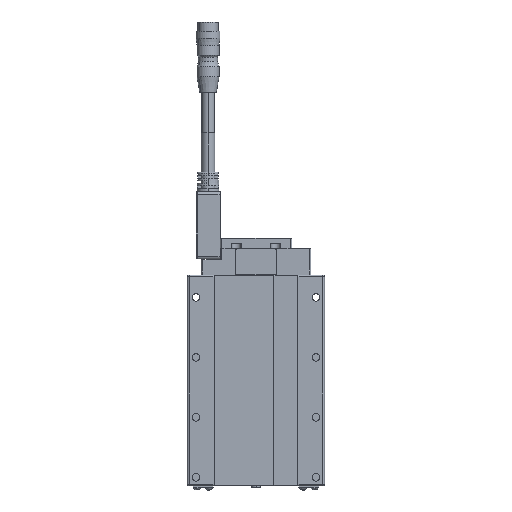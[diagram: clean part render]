
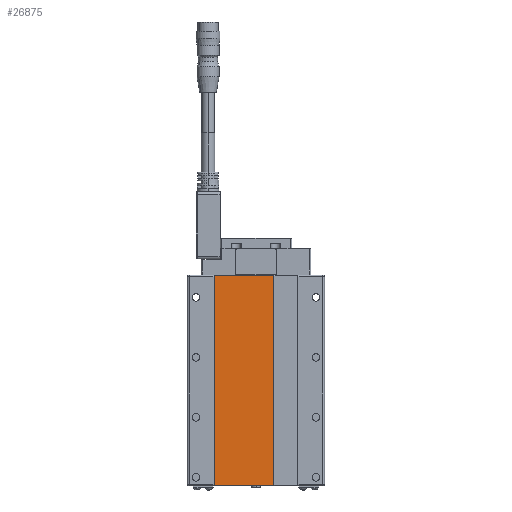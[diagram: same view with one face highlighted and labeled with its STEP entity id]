
A CAD part, front view. The second image highlights one B-rep face of the part: STEP entity #26875.
In plain terms, the highlighted planar face has unit normal (0, -1, 0).
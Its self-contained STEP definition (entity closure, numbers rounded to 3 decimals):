
#1488 = PLANE ( 'NONE',  #7801 ) ;
#2582 = LINE ( 'NONE', #53885, #22488 ) ;
#6243 = CARTESIAN_POINT ( 'NONE',  ( -24.3, 0.3, 122.8 ) ) ;
#6254 = EDGE_CURVE ( 'NONE', #56263, #32735, #2582, .T. ) ;
#7801 = AXIS2_PLACEMENT_3D ( 'NONE', #14573, #20474, #21379 ) ;
#7893 = ORIENTED_EDGE ( 'NONE', *, *, #54864, .T. ) ;
#8570 = DIRECTION ( 'NONE',  ( 1., 0., 0. ) ) ;
#11033 = LINE ( 'NONE', #52718, #39254 ) ;
#14573 = CARTESIAN_POINT ( 'NONE',  ( -24.3, 0.3, 122.8 ) ) ;
#16012 = DIRECTION ( 'NONE',  ( 0., 0., 1. ) ) ;
#16172 = VECTOR ( 'NONE', #48278, 1000. ) ;
#16659 = EDGE_CURVE ( 'NONE', #38138, #54024, #11033, .T. ) ;
#20474 = DIRECTION ( 'NONE',  ( 0., 1., 0. ) ) ;
#21379 = DIRECTION ( 'NONE',  ( -1., 0., 0. ) ) ;
#22488 = VECTOR ( 'NONE', #39251, 1000. ) ;
#22839 = CARTESIAN_POINT ( 'NONE',  ( -24.3, 0.3, 0.2 ) ) ;
#23500 = ORIENTED_EDGE ( 'NONE', *, *, #16659, .T. ) ;
#26875 = ADVANCED_FACE ( 'NONE', ( #48739 ), #1488, .F. ) ;
#28424 = VECTOR ( 'NONE', #8570, 1000. ) ;
#32499 = CARTESIAN_POINT ( 'NONE',  ( -24.3, 0.3, 0.2 ) ) ;
#32735 = VERTEX_POINT ( 'NONE', #22839 ) ;
#33049 = CARTESIAN_POINT ( 'NONE',  ( -24.3, 0.3, 122.8 ) ) ;
#34055 = ORIENTED_EDGE ( 'NONE', *, *, #43672, .T. ) ;
#36834 = LINE ( 'NONE', #32499, #28424 ) ;
#38138 = VERTEX_POINT ( 'NONE', #41195 ) ;
#39251 = DIRECTION ( 'NONE',  ( 0., 0., -1. ) ) ;
#39254 = VECTOR ( 'NONE', #16012, 1000. ) ;
#41195 = CARTESIAN_POINT ( 'NONE',  ( 10.3, 0.3, 0.2 ) ) ;
#43672 = EDGE_CURVE ( 'NONE', #32735, #38138, #36834, .T. ) ;
#47503 = CARTESIAN_POINT ( 'NONE',  ( 10.3, 0.3, 122.8 ) ) ;
#47959 = LINE ( 'NONE', #33049, #16172 ) ;
#48278 = DIRECTION ( 'NONE',  ( -1., 0., 0. ) ) ;
#48739 = FACE_OUTER_BOUND ( 'NONE', #57330, .T. ) ;
#48801 = ORIENTED_EDGE ( 'NONE', *, *, #6254, .T. ) ;
#52718 = CARTESIAN_POINT ( 'NONE',  ( 10.3, 0.3, 0.2 ) ) ;
#53885 = CARTESIAN_POINT ( 'NONE',  ( -24.3, 0.3, 0.2 ) ) ;
#54024 = VERTEX_POINT ( 'NONE', #47503 ) ;
#54864 = EDGE_CURVE ( 'NONE', #54024, #56263, #47959, .T. ) ;
#56263 = VERTEX_POINT ( 'NONE', #6243 ) ;
#57330 = EDGE_LOOP ( 'NONE', ( #48801, #34055, #23500, #7893 ) ) ;
